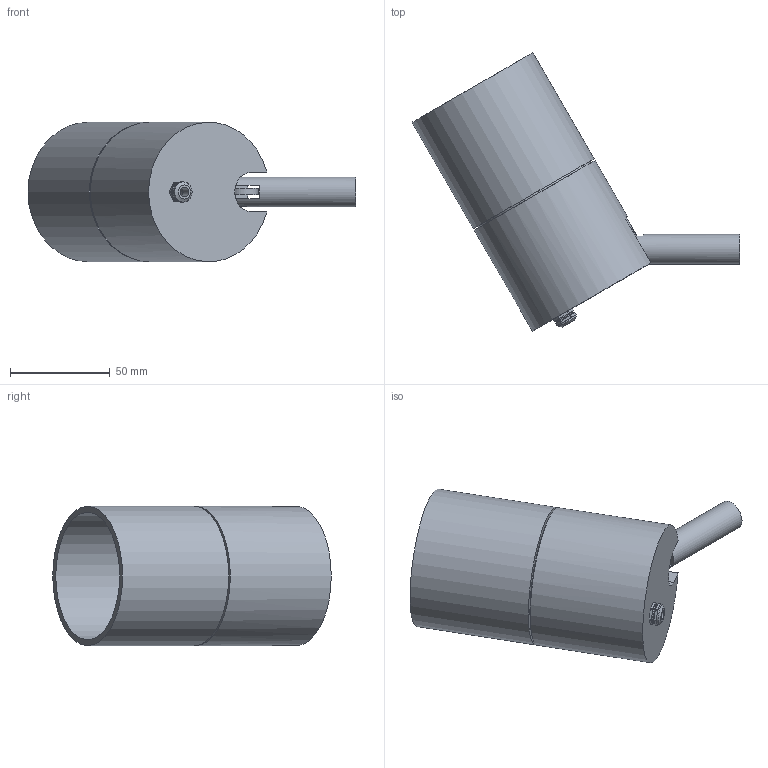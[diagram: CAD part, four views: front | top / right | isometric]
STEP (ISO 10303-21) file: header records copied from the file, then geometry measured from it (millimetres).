
FILE_DESCRIPTION(/* description */ (''),/* implementation_level */ '2;1');
FILE_NAME(/* name */ 'C:/Users/elena/OneDrive/Allegati di posta elettronica/Desktop/Corallo senza.step',/* time_stamp */ '2020-06-08T12:29:52+02:00',/* author */ (''),/* organization */ (''),/* preprocessor_version */ 'ST-DEVELOPER v18.1',/* originating_system */ 'Autodesk Translation Framework v9.3.0.1241',/* authorisation */ '');
FILE_SCHEMA (('AUTOMOTIVE_DESIGN { 1 0 10303 214 3 1 1 }'));
Length unit declared in the file: millimetre
Products named in the file (1): (Unsaved)
Bounding box: 164.63 x 139.79 x 70 mm (x, y, z)
Volume: 301637.7 mm3; surface area: 59733.3 mm2
Topology: 6 solids, 6 shells, 107 faces, 238 edges, 154 vertices
Faces by surface type: plane 59, cylinder 38, cone 6, torus 4
Full cylindrical faces by diameter (mm): 2.2 x1, 3 x4, 4 x3, 5 x3, 8.6 x1, 10 x1, 10.127 x1, 15 x2, 50.6 x1, 56 x1, 61 x1, 64 x1, 65 x2, 70 x2
Entity records: 3229 total; most frequent: CARTESIAN_POINT 666, DIRECTION 552, ORIENTED_EDGE 476, EDGE_CURVE 238, AXIS2_PLACEMENT_3D 219, VERTEX_POINT 154, EDGE_LOOP 134, LINE 114
